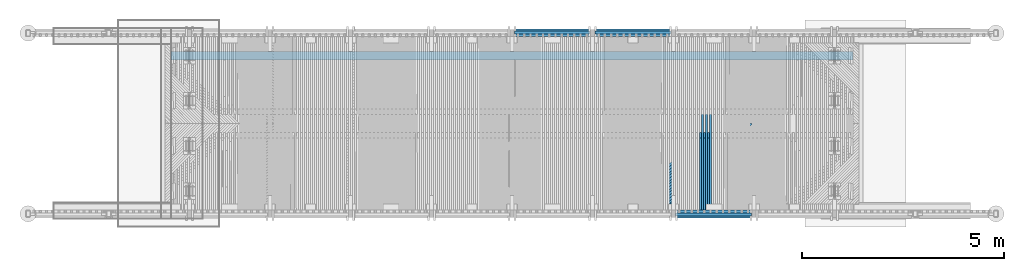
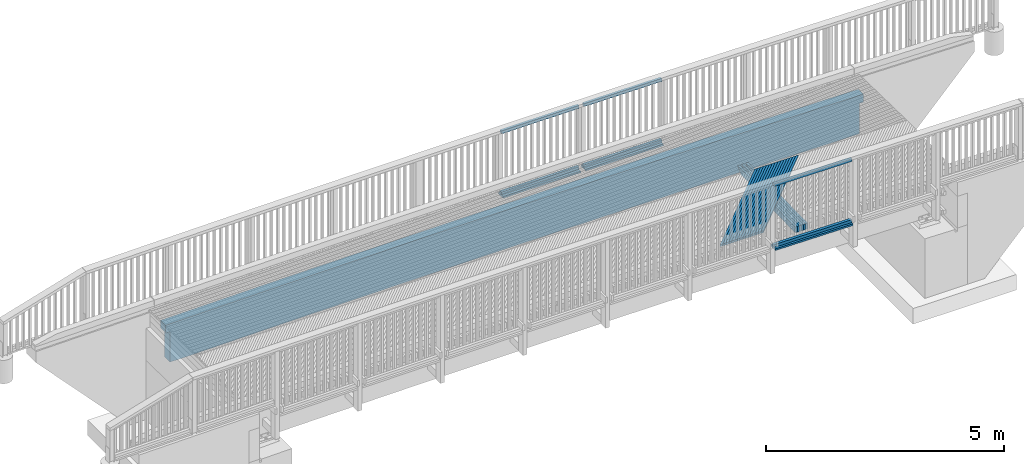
# One storey, part 37 of 52: 31 beams.
"""IFC2X3 building model written with IfcOpenShell, lengths in millimetres."""

import ifcopenshell
import ifcopenshell.guid

model = None  # the IFC model being written
_history = None  # IfcOwnerHistory: only IFC2X3 demands one
_inside = {}  # id of a spatial element -> (the spatial element, [elements in it])
_under = {}  # id of a project, library or spatial element -> (it, [spatial elements below it])
_declared = {}  # id of a project -> (the project, [libraries it declares])
_typed = {}  # id of a type object -> (the type object, [elements of that type])
_made_of = {}  # id of a material, layer set ... -> (it, [elements and type objects made of it])


def new_model(schema):
    """Start an empty IFC model of exactly this schema.

    Asked for "IFC4X3", IfcOpenShell would pick the latest addendum, in which some entities
    have other attributes; the version numbers below select the first issue.
    IFC2X3 requires an IfcOwnerHistory on every rooted entity: one is made here for all.
    """
    global model, _history
    if schema == "IFC4X3":
        model = ifcopenshell.file(schema_version=(4, 3, 0, 0))
    else:
        model = ifcopenshell.file(schema=schema)
    _inside.clear()
    _under.clear()
    _declared.clear()
    _typed.clear()
    _made_of.clear()
    _history = None
    if model.schema == "IFC2X3":
        org = make("IfcOrganization", Name="unknown")
        user = make(
            "IfcPersonAndOrganization",
            ThePerson=make("IfcPerson", FamilyName="unknown"),
            TheOrganization=org,
        )
        app = make(
            "IfcApplication",
            ApplicationDeveloper=org,
            Version="unknown",
            ApplicationFullName="unknown",
            ApplicationIdentifier="unknown",
        )
        _history = make(
            "IfcOwnerHistory",
            OwningUser=user,
            OwningApplication=app,
            ChangeAction="ADDED",
            CreationDate=0,
        )
    return model


def make(cls, **values):
    """One entity of the class cls with the attributes given. An attribute that is None is left unset."""
    return model.create_entity(
        cls, **{name: value for name, value in values.items() if value is not None}
    )


def rooted(cls, **values):
    """An entity with a GlobalId (a new one), such as an element, a storey or a relation."""
    return make(cls, GlobalId=ifcopenshell.guid.new(), OwnerHistory=_history, **values)


def si_unit(unit_type, name, prefix=None):
    """IfcSIUnit, for example si_unit("LENGTHUNIT", "METRE", prefix="MILLI")."""
    return make("IfcSIUnit", UnitType=unit_type, Prefix=prefix, Name=name)


def assignment(units):
    """IfcUnitAssignment: the units of a project."""
    return None if units is None else make("IfcUnitAssignment", Units=units)


def point(xyz):
    """IfcCartesianPoint."""
    return None if xyz is None else make("IfcCartesianPoint", Coordinates=xyz)


def direction(xyz):
    """IfcDirection."""
    return None if xyz is None else make("IfcDirection", DirectionRatios=xyz)


def frame(location, z_axis=None, x_axis=None):
    """IfcAxis2Placement3D, a coordinate frame: its origin and axes. An axis left out is left unset."""
    return make(
        "IfcAxis2Placement3D",
        Location=point(location),
        Axis=direction(z_axis),
        RefDirection=direction(x_axis),
    )


def origin_with_axes():
    """The frame at (0, 0, 0) with the z axis (0, 0, 1) and the x axis (1, 0, 0) written out."""
    return frame((0.0, 0.0, 0.0), z_axis=(0.0, 0.0, 1.0), x_axis=(1.0, 0.0, 0.0))


def place(relative_to, where):
    """IfcLocalPlacement: puts the frame where relative to a parent placement (None: the world)."""
    return make(
        "IfcLocalPlacement", PlacementRelTo=relative_to, RelativePlacement=where
    )


def context(
    kind, dimensions, precision=None, world=None, true_north=None, identifier=None
):
    """IfcGeometricRepresentationContext, for example the 3D "Model" context."""
    return make(
        "IfcGeometricRepresentationContext",
        ContextIdentifier=identifier,
        ContextType=kind,
        CoordinateSpaceDimension=dimensions,
        Precision=precision,
        WorldCoordinateSystem=world,
        TrueNorth=true_north,
    )


def subcontext(parent, identifier, kind, view, scale=None):
    """IfcGeometricRepresentationSubContext, for example "Body" below "Model"."""
    return make(
        "IfcGeometricRepresentationSubContext",
        ContextIdentifier=identifier,
        ContextType=kind,
        ParentContext=parent,
        TargetScale=scale,
        TargetView=view,
    )


def project(units=None, contexts=None):
    """IfcProject with its units and contexts."""
    return rooted(
        "IfcProject",
        Name="project",
        RepresentationContexts=contexts,
        UnitsInContext=assignment(units),
    )


def spatial(cls, under=None, at=None, **own):
    """A site, building, storey or space (cls), placed at a placement, below another one or the project."""
    s = rooted(cls, ObjectPlacement=at, **own)
    if under is not None:
        _under.setdefault(under.id(), (under, []))[1].append(s)
    return s


def faces_of(points, faces, orient=None, outer=None):
    """IfcFace entities. A face is a list of loops; a loop is a list of indices into points, from 0.

    orient and outer hold one flag for each loop. By default every Orientation is true, the
    first loop of a face is its IfcFaceOuterBound and the others are IfcFaceBound.
    """
    made = []
    for i, loops in enumerate(faces):
        bounds = []
        for j, loop in enumerate(loops):
            is_outer = j == 0 if outer is None else outer[i][j]
            bounds.append(
                make(
                    "IfcFaceOuterBound" if is_outer else "IfcFaceBound",
                    Bound=make("IfcPolyLoop", Polygon=[points[k] for k in loop]),
                    Orientation=True if orient is None else orient[i][j],
                )
            )
        made.append(make("IfcFace", Bounds=bounds))
    return made


def faceted_brep(points, faces, orient=None, outer=None, voids=None):
    """IfcFacetedBrep: a solid bounded by flat faces; with voids (closed shells), ...WithVoids."""
    shared = [point(p) for p in points]
    hull = make("IfcClosedShell", CfsFaces=faces_of(shared, faces, orient, outer))
    if voids is None:
        return make("IfcFacetedBrep", Outer=hull)
    return make(
        "IfcFacetedBrepWithVoids",
        Outer=hull,
        Voids=[
            make(cls, CfsFaces=faces_of(shared, fs, o, b)) for cls, fs, o, b in voids
        ],
    )


def shape(context_of_items, identifier, shape_type, items):
    """IfcShapeRepresentation: the items that make up one representation, for example the "Body"."""
    return make(
        "IfcShapeRepresentation",
        ContextOfItems=context_of_items,
        RepresentationIdentifier=identifier,
        RepresentationType=shape_type,
        Items=items,
    )


def material(Name=None, Category=None):
    """IfcMaterial."""
    return make("IfcMaterial", Name=Name, Category=Category)


def made_of(thing, what):
    """Note that an element or type object is made of a material, layer set ...; save() writes the relation."""
    if what is not None:
        _made_of.setdefault(what.id(), (what, []))[1].append(thing)
    return thing


def type_object(cls, material=None, **own):
    """A type object (cls), such as IfcWallType, which elements share."""
    return made_of(rooted(cls, **own), material)


def element(
    cls,
    number,
    at=None,
    inside=None,
    cuts=None,
    type_object=None,
    material=None,
    context=None,
    identifier="Body",
    shape_type=None,
    held_by="IfcProductDefinitionShape",
    body=None,
    shapes=None,
    **own,
):
    """One element of the class cls, such as IfcWall. Its Tag is "e" and its number.

    at: its placement. inside: the storey or other place that contains it. cuts: it is an
    opening in that element (IfcRelVoidsElement). A single representation is given by context,
    identifier, shape_type and body (its items); several are given by shapes. held_by: the class
    of the entity that holds the representations. save() writes the other relations.
    """
    e = rooted(cls, Tag="e%d" % number, ObjectPlacement=at, **own)
    if body is not None:
        shapes = [shape(context, identifier, shape_type, body)]
    if shapes is not None:
        e.Representation = make(held_by, Representations=shapes)
    if inside is not None:
        _inside.setdefault(inside.id(), (inside, []))[1].append(e)
    if cuts is not None:
        rooted(
            "IfcRelVoidsElement", RelatingBuildingElement=cuts, RelatedOpeningElement=e
        )
    if type_object is not None:
        _typed.setdefault(type_object.id(), (type_object, []))[1].append(e)
    return made_of(e, material)


def aggregate(whole, parts):
    """IfcRelAggregates: a whole, such as a stair, and the parts it consists of."""
    return rooted("IfcRelAggregates", RelatingObject=whole, RelatedObjects=parts)


def save(model, path):
    """Write the relations noted so far, then the file.

    IfcRelAggregates (storeys below a building ...), IfcRelContainedInSpatialStructure (elements
    in a storey), IfcRelDefinesByType, IfcRelAssociatesMaterial and IfcRelDeclares: one each for
    every whole, place, type object, material and project.
    """
    for whole, parts in _under.values():
        aggregate(whole, parts)
    for where, things in _inside.values():
        rooted(
            "IfcRelContainedInSpatialStructure",
            RelatedElements=things,
            RelatingStructure=where,
        )
    for kind, things in _typed.values():
        rooted("IfcRelDefinesByType", RelatedObjects=things, RelatingType=kind)
    for what, things in _made_of.values():
        rooted("IfcRelAssociatesMaterial", RelatedObjects=things, RelatingMaterial=what)
    for by, libraries in _declared.values():
        rooted("IfcRelDeclares", RelatingContext=by, RelatedDefinitions=libraries)
    model.write(path)


model = new_model("IFC2X3")

# Units and contexts
model_context = context("Model", 3, precision=1e-05, world=origin_with_axes())
body_context = subcontext(model_context, "Body", "Model", "MODEL_VIEW")
ifc_project = project(units=[si_unit("LENGTHUNIT", "METRE", prefix="MILLI"), si_unit("AREAUNIT", "SQUARE_METRE"), si_unit("VOLUMEUNIT", "CUBIC_METRE"), si_unit("MASSUNIT", "GRAM", prefix="KILO"), si_unit("TIMEUNIT", "SECOND"), si_unit("PLANEANGLEUNIT", "RADIAN"), si_unit("SOLIDANGLEUNIT", "STERADIAN"), si_unit("THERMODYNAMICTEMPERATUREUNIT", "DEGREE_CELSIUS"), si_unit("LUMINOUSINTENSITYUNIT", "LUMEN")], contexts=[model_context])

# Site, building, storey
site_placement = place(None, origin_with_axes())
site = spatial("IfcSite", under=ifc_project, at=site_placement, Name="Undefined", CompositionType="ELEMENT")
building_placement = place(site_placement, origin_with_axes())
building = spatial("IfcBuilding", under=site, at=building_placement, Name="Undefined", CompositionType="ELEMENT")
storey_placement = place(building_placement, origin_with_axes())
storey = spatial("IfcBuildingStorey", under=building, at=storey_placement, Name="Undefined", CompositionType="ELEMENT", Elevation=0.0)

# Beams
ifc_material = material(Name="TIMBER/Timber_Undefined")
beam_type_1 = type_object("IfcBeamType", Name="70*70", PredefinedType="NOTDEFINED")
beam_1_placement = place(storey_placement, frame((10059.8168055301, 4619.99006894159, 2964.92507854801), z_axis=(0.0, 1.0, 0.0), x_axis=(0.999986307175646, 0.0, -0.00523311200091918)))
element("IfcBeam", 1, at=beam_1_placement, inside=storey, type_object=beam_type_1, material=ifc_material, Name="BEAM", ObjectType="70*70", context=body_context, shape_type="Brep", body=[
    faceted_brep([(-3.63797880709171e-12, 35.0000000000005, -35.0), (-3.63797880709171e-12, 35.0000000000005, 35.0), (1880.02601672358, 34.9999999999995, 35.0), (1880.02601672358, 34.9999999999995, -35.0), (-3.63797880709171e-12, -34.9999999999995, 35.0), (1880.02601672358, -35.0000000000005, 35.0), (-3.63797880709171e-12, -34.9999999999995, -35.0), (1880.02601672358, -35.0000000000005, -35.0)], [[[0, 1, 2, 3]], [[1, 4, 5, 2]], [[4, 6, 7, 5]], [[6, 0, 3, 7]], [[5, 7, 3, 2]], [[6, 4, 1, 0]]]),
])
beam_2_placement = place(storey_placement, frame((8059.93901393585, 4619.98998534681, 2968.2738534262), z_axis=(0.0, 1.0, 0.0), x_axis=(0.999998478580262, 0.0, -0.00174437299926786)))
element("IfcBeam", 2, at=beam_2_placement, inside=storey, type_object=beam_type_1, material=ifc_material, Name="BEAM", ObjectType="70*70", context=body_context, shape_type="Brep", body=[
    faceted_brep([(-3.63797880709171e-12, 35.0000000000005, -35.0), (-3.63797880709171e-12, 35.0000000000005, 35.0), (1880.00289069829, 35.0, 35.0), (1880.00289069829, 35.0, -35.0), (-3.63797880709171e-12, -34.9999999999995, 35.0), (1880.00289069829, -35.0000000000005, 35.0), (-3.63797880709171e-12, -34.9999999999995, -35.0), (1880.00289069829, -35.0000000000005, -35.0)], [[[0, 1, 2, 3]], [[1, 4, 5, 2]], [[4, 6, 7, 5]], [[6, 0, 3, 7]], [[5, 7, 3, 2]], [[6, 4, 1, 0]]]),
])
beam_3_placement = place(storey_placement, frame((10059.8168055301, 4619.99006894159, 4524.92507854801), z_axis=(0.0, 1.0, 0.0), x_axis=(0.999986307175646, 0.0, -0.00523311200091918)))
element("IfcBeam", 3, at=beam_3_placement, inside=storey, type_object=beam_type_1, material=ifc_material, Name="BEAM", ObjectType="70*70", context=body_context, shape_type="Brep", body=[
    faceted_brep([(-3.63797880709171e-12, 35.0000000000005, -35.0), (-3.63797880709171e-12, 35.0000000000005, 35.0), (1880.02601672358, 34.9999999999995, 35.0), (1880.02601672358, 34.9999999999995, -35.0), (-3.63797880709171e-12, -34.9999999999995, 35.0), (1880.02601672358, -35.0000000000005, 35.0), (-3.63797880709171e-12, -34.9999999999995, -35.0), (1880.02601672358, -35.0000000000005, -35.0)], [[[0, 1, 2, 3]], [[1, 4, 5, 2]], [[4, 6, 7, 5]], [[6, 0, 3, 7]], [[5, 7, 3, 2]], [[6, 4, 1, 0]]]),
])
beam_4_placement = place(storey_placement, frame((8059.93901393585, 4619.98998534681, 4528.2738534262), z_axis=(0.0, 1.0, 0.0), x_axis=(0.999998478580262, 0.0, -0.00174437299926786)))
element("IfcBeam", 4, at=beam_4_placement, inside=storey, type_object=beam_type_1, material=ifc_material, Name="BEAM", ObjectType="70*70", context=body_context, shape_type="Brep", body=[
    faceted_brep([(-3.63797880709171e-12, 35.0000000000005, -35.0), (-3.63797880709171e-12, 35.0000000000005, 35.0), (1880.00289069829, 35.0, 35.0), (1880.00289069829, 35.0, -35.0), (-3.63797880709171e-12, -34.9999999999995, 35.0), (1880.00289069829, -35.0000000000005, 35.0), (-3.63797880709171e-12, -34.9999999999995, -35.0), (1880.00289069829, -35.0000000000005, -35.0)], [[[0, 1, 2, 3]], [[1, 4, 5, 2]], [[4, 6, 7, 5]], [[6, 0, 3, 7]], [[5, 7, 3, 2]], [[6, 4, 1, 0]]]),
])
for number, where, z_axis, x_axis, name in (
    (5, (12059.6944082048, 110.01000090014, 2954.94799357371), (0.0, -1.0, 0.0), (0.999961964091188, 0.0, -0.0087218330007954), "BEAM"),
    (6, (12059.6944082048, 110.01000090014, 4514.94799357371), (0.0, -1.0, 0.0), (0.999961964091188, 0.0, -0.0087218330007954), "BEAM"),
):
    element("IfcBeam", number, at=place(storey_placement, frame(where, z_axis=z_axis, x_axis=x_axis)), inside=storey, type_object=beam_type_1, material=ifc_material, Name=name, ObjectType="70*70", context=body_context, shape_type="Brep", body=[
        faceted_brep([(-3.63797880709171e-12, 35.0000000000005, -35.0), (-3.63797880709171e-12, 35.0000000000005, 35.0), (1880.07227097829, 34.9999999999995, 35.0), (1880.07227097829, 34.9999999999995, -35.0), (-3.63797880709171e-12, -34.9999999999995, 35.0), (1880.07227097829, -35.0000000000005, 35.0), (-3.63797880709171e-12, -34.9999999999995, -35.0), (1880.07227097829, -35.0000000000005, -35.0)], [[[0, 1, 2, 3]], [[1, 4, 5, 2]], [[4, 6, 7, 5]], [[6, 0, 3, 7]], [[5, 7, 3, 2]], [[6, 4, 1, 0]]]),
    ])
beam_type_2 = type_object("IfcBeamType", Name="50*50", PredefinedType="NOTDEFINED")
for number, where, z_axis, x_axis, name in (
    (7, (13935.0975862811, 2364.50010032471, 3206.86972998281), (0.706953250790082, -0.706981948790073, -0.019839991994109), (-0.707214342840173, -0.706948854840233, -0.00843741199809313), "BEAM"),
    (8, (13864.3767480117, 2364.50010032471, 3207.56271699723), (0.706955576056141, -0.706981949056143, -0.019756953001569), (-0.707213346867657, -0.706948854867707, -0.00852048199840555), "BEAM"),
    (9, (13793.6558288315, 2364.50010032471, 3208.24739709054), (0.706957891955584, -0.706981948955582, -0.019673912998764), (-0.70721234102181, -0.706948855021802, -0.00860355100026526), "BEAM"),
    (10, (13722.9348297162, 2364.50010032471, 3208.92377025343), (0.706960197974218, -0.706981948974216, -0.0195908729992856), (-0.7072113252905, -0.706948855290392, -0.00868662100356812), "BEAM"),
    (11, (13652.2137516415, 2364.50010032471, 3209.5918364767), (0.706962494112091, -0.706981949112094, -0.0195078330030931), (-0.707210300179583, -0.706948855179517, -0.0087696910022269), "BEAM"),
    (12, (13581.4925955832, 2364.50010032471, 3210.25159575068), (0.706964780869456, -0.706981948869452, -0.0194247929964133), (-0.707209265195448, -0.706948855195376, -0.00885276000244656), "BEAM"),
    (13, (13510.771362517, 2364.50010032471, 3210.90304806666), (0.706967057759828, -0.706981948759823, -0.019341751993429), (-0.70720822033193, -0.706948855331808, -0.00893582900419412), "BEAM"),
    (14, (13440.0500534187, 2364.50010032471, 3211.54619341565), (0.706969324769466, -0.706981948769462, -0.0192587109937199), (-0.707207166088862, -0.706948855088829, -0.00901889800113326), "BEAM"),
    (15, (13369.3286692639, 2364.50010032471, 3212.18103178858), (0.706971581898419, -0.706981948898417, -0.0191756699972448), (-0.707206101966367, -0.706948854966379, -0.00910196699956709), "BEAM"),
    (16, (13298.6072110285, 2364.50010032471, 3212.80756317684), (0.706973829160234, -0.706981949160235, -0.0190926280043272), (-0.707205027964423, -0.706948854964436, -0.00918503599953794), "BEAM"),
    (17, (13227.8856796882, 2364.50010032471, 3213.42578757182), (0.706976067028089, -0.706981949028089, -0.0190095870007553), (-0.707203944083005, -0.706948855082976, -0.00926810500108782), "BEAM"),
    (18, (13157.1640762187, 2364.50010032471, 3214.03570496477), (0.706978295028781, -0.70698194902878, -0.0189265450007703), (-0.707202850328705, -0.706948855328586, -0.00935117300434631), "BEAM"),
    (19, (13086.4424015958, 2364.50010032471, 3214.63731534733), (0.70698051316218, -0.706981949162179, -0.0188435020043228), (-0.707201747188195, -0.706948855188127, -0.00943424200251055), "BEAM"),
    (20, (13015.7206567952, 2364.50010032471, 3215.23061871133), (0.706982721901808, -0.706981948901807, -0.0187604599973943), (-0.707200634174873, -0.706948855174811, -0.00951731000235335), "BEAM"),
    (21, (12944.9988427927, 2364.50010032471, 3215.81561504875), (0.706984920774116, -0.706981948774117, -0.0186774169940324), (-0.707199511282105, -0.706948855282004, -0.0096003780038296), "BEAM"),
):
    element("IfcBeam", number, at=place(storey_placement, frame(where, z_axis=z_axis, x_axis=x_axis)), inside=storey, type_object=beam_type_2, material=ifc_material, Name=name, ObjectType="50*50", context=body_context, shape_type="Brep", body=[
        faceted_brep([(24.894245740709, 25.0, -25.0), (-25.0086637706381, 24.9999999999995, 24.9999999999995), (2804.3406783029, 25.0000000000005, 25.0000000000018), (2854.34301907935, 25.0, -24.9999999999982), (-26.4222658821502, -25.0, 24.9999999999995), (2802.92643296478, -25.0, 25.0000000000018), (23.4806436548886, -25.0, -25.0), (2852.92877373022, -25.0, -24.9999999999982)], [[[0, 1, 2, 3]], [[1, 4, 5, 2]], [[4, 6, 7, 5]], [[6, 0, 3, 7]], [[5, 7, 3, 2]], [[6, 4, 1, 0]]]),
    ])
beam_type_3 = type_object("IfcBeamType", Name="195*45", PredefinedType="NOTDEFINED")
for number, where, z_axis, x_axis, name in (
    (22, (10058.6596893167, 4612.49006894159, 2907.43959457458), (0.0, 1.0, 0.0), (0.999986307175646, 0.0, -0.00523311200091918), "BEAM"),
    (23, (8058.9824575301, 4612.48998534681, 2910.78468240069), (0.0, 1.0, 0.0), (0.999998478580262, 0.0, -0.00174437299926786), "BEAM"),
    (24, (12058.3367436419, 117.510000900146, 2897.4668963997), (0.0, -1.0, 0.0), (0.999961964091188, 0.0, -0.0087218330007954), "BEAM"),
):
    element("IfcBeam", number, at=place(storey_placement, frame(where, z_axis=z_axis, x_axis=x_axis)), inside=storey, type_object=beam_type_3, material=ifc_material, Name=name, ObjectType="195*45", context=body_context, shape_type="Brep", body=[
        faceted_brep([(3.63797880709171e-12, 22.4999999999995, -97.5), (3.63797880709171e-12, 22.4999999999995, 97.5), (1880.22135781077, 22.4999999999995, 97.5), (1880.22135781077, 22.4999999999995, -97.5), (1.81898940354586e-12, -22.5000000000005, 97.5), (1880.22135781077, -22.5000000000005, 97.5), (1.81898940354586e-12, -22.5000000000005, -97.5), (1880.22135781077, -22.5000000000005, -97.5)], [[[0, 1, 2, 3]], [[1, 4, 5, 2]], [[4, 6, 7, 5]], [[6, 0, 3, 7]], [[5, 7, 3, 2]], [[6, 4, 1, 0]]]),
    ])
beam_type_4 = type_object("IfcBeamType", Name="150*50", PredefinedType="NOTDEFINED")
beam_5_placement = place(storey_placement, frame((12874.8994002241, 216.50460761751, 3073.40458690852), z_axis=(0.00801827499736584, -0.01999600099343, 0.999767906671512), x_axis=(0.0001603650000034, 0.999800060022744, 0.0199953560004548)))
element("IfcBeam", 25, at=beam_5_placement, inside=storey, type_object=beam_type_4, material=ifc_material, Name="BEAM", ObjectType="150*50", context=body_context, shape_type="Brep", body=[
    faceted_brep([(-1.67788130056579e-07, -24.9999999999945, -74.9999999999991), (1.67786311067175e-07, -24.9999999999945, 75.0000000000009), (1.67786311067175e-07, 25.0000000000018, 75.0), (-1.67787220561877e-07, 25.0000000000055, -75.0), (1789.96936433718, -25.0000000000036, 74.9999999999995), (1789.96936408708, 24.9999999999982, 75.0000000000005), (1928.42646328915, 24.9999999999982, -74.9999999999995), (1928.42646353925, -25.0, -75.0)], [[[0, 1, 2, 3]], [[2, 1, 4, 5]], [[3, 2, 5, 6]], [[0, 3, 6, 7]], [[1, 0, 7, 4]], [[6, 5, 4, 7]]]),
])
beam_6_placement = place(storey_placement, frame((12924.9177572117, 216.504607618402, 3072.99512326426), z_axis=(0.00818439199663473, -0.01999600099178, 0.999766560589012), x_axis=(0.000163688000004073, 0.999800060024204, 0.019995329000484)))
element("IfcBeam", 26, at=beam_6_placement, inside=storey, type_object=beam_type_4, material=ifc_material, Name="BEAM", ObjectType="150*50", context=body_context, shape_type="Brep", body=[
    faceted_brep([(-1.67788130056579e-07, -24.9999999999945, -74.9999999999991), (1.67786311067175e-07, -24.9999999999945, 75.0000000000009), (1.67786311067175e-07, 25.0000000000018, 75.0), (-1.67787220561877e-07, 25.0000000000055, -75.0), (2375.00494422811, 25.0000000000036, -74.9999999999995), (2375.0049444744, -24.9999999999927, -74.9999999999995), (2510.5924871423, -24.9999999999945, 60.5875430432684), (2150.42514405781, -24.9999999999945, 75.0000000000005), (2150.42515052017, 25.0000000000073, 75.0), (2510.59248715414, 25.0000000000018, 60.5875433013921)], [[[0, 1, 2, 3]], [[0, 3, 4, 5]], [[1, 0, 5, 6, 7]], [[2, 1, 7, 8]], [[4, 3, 2, 8, 9]], [[5, 4, 9, 6]], [[6, 9, 8, 7]]]),
])
beam_7_placement = place(storey_placement, frame((12774.8825803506, 216.50460761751, 3074.20626833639), z_axis=(0.00785215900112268, -0.0199960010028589, 0.99976922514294), x_axis=(0.00015704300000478, 0.999800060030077, 0.0199953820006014)))
element("IfcBeam", 27, at=beam_7_placement, inside=storey, type_object=beam_type_4, material=ifc_material, Name="BEAM", ObjectType="150*50", context=body_context, shape_type="Brep", body=[
    faceted_brep([(-1.67788130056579e-07, -24.9999999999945, -74.9999999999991), (1.67786311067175e-07, -24.9999999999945, 75.0000000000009), (1.67786311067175e-07, 25.0000000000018, 75.0), (-1.67787220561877e-07, 25.0000000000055, -75.0), (1789.96936433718, -25.0000000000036, 74.9999999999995), (1789.96936408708, 24.9999999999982, 75.0000000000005), (1928.42646328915, 24.9999999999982, -74.9999999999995), (1928.42646353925, -25.0, -75.0)], [[[0, 1, 2, 3]], [[2, 1, 4, 5]], [[3, 2, 5, 6]], [[0, 3, 6, 7]], [[1, 0, 7, 4]], [[6, 5, 4, 7]]]),
])
beam_8_placement = place(storey_placement, frame((12824.9010046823, 216.504607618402, 3073.80511551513), z_axis=(0.00801827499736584, -0.01999600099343, 0.999767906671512), x_axis=(0.0001603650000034, 0.999800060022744, 0.0199953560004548)))
element("IfcBeam", 28, at=beam_8_placement, inside=storey, type_object=beam_type_4, material=ifc_material, Name="BEAM", ObjectType="150*50", context=body_context, shape_type="Brep", body=[
    faceted_brep([(-1.67788130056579e-07, -24.9999999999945, -74.9999999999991), (1.67786311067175e-07, -24.9999999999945, 75.0000000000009), (1.67786311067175e-07, 25.0000000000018, 75.0), (-1.67787220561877e-07, 25.0000000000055, -75.0), (2375.00494422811, 25.0000000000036, -74.9999999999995), (2375.0049444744, -24.9999999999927, -74.9999999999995), (2510.5924871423, -24.9999999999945, 60.5875430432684), (2150.42514405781, -24.9999999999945, 75.0000000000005), (2150.42515052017, 25.0000000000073, 75.0), (2510.59248715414, 25.0000000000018, 60.5875433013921)], [[[0, 1, 2, 3]], [[0, 3, 4, 5]], [[1, 0, 5, 6, 7]], [[2, 1, 7, 8]], [[4, 3, 2, 8, 9]], [[5, 4, 9, 6]], [[6, 9, 8, 7]]]),
])
beam_9_placement = place(storey_placement, frame((12674.8656286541, 216.50460761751, 3074.99133142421), z_axis=(0.00768604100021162, -0.0199960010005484, 0.999770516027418), x_axis=(0.000153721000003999, 0.999800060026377, 0.0199954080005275)))
element("IfcBeam", 29, at=beam_9_placement, inside=storey, type_object=beam_type_4, material=ifc_material, Name="BEAM", ObjectType="150*50", context=body_context, shape_type="Brep", body=[
    faceted_brep([(-1.67788130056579e-07, -24.9999999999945, -74.9999999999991), (1.67786311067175e-07, -24.9999999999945, 75.0000000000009), (1.67786311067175e-07, 25.0000000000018, 75.0), (-1.67787220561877e-07, 25.0000000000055, -75.0), (1789.96936433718, -25.0000000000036, 74.9999999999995), (1789.96936408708, 24.9999999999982, 75.0000000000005), (1928.42646328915, 24.9999999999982, -74.9999999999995), (1928.42646353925, -25.0, -75.0)], [[[0, 1, 2, 3]], [[2, 1, 4, 5]], [[3, 2, 5, 6]], [[0, 3, 6, 7]], [[1, 0, 7, 4]], [[6, 5, 4, 7]]]),
])
beam_10_placement = place(storey_placement, frame((12724.884118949, 216.504607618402, 3074.5984894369), z_axis=(0.00785215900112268, -0.0199960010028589, 0.99976922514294), x_axis=(0.00015704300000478, 0.999800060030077, 0.0199953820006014)))
element("IfcBeam", 30, at=beam_10_placement, inside=storey, type_object=beam_type_4, material=ifc_material, Name="BEAM", ObjectType="150*50", context=body_context, shape_type="Brep", body=[
    faceted_brep([(-1.67788130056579e-07, -24.9999999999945, -74.9999999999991), (1.67786311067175e-07, -24.9999999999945, 75.0000000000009), (1.67786311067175e-07, 25.0000000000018, 75.0), (-1.67787220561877e-07, 25.0000000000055, -75.0), (2375.00494422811, 25.0000000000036, -74.9999999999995), (2375.0049444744, -24.9999999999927, -74.9999999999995), (2510.5924871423, -24.9999999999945, 60.5875430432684), (2150.42514405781, -24.9999999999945, 75.0000000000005), (2150.42515052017, 25.0000000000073, 75.0), (2510.59248715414, 25.0000000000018, 60.5875433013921)], [[[0, 1, 2, 3]], [[0, 3, 4, 5]], [[1, 0, 5, 6, 7]], [[2, 1, 7, 8]], [[4, 3, 2, 8, 9]], [[5, 4, 9, 6]], [[6, 9, 8, 7]]]),
])
beam_type_5 = type_object("IfcBeamType", Name="990*215", PredefinedType="NOTDEFINED")
beam_11_placement = place(storey_placement, frame((243.613169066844, 4045.0, 2480.11879463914), z_axis=(0.0, 0.0, 1.0), x_axis=(1.0, 0.0, 0.0)))
element("IfcBeam", 31, at=beam_11_placement, inside=storey, type_object=beam_type_5, material=ifc_material, Name="PALKKI", ObjectType="990*215", context=body_context, shape_type="Brep", body=[
    faceted_brep([(16106.3868309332, 107.5, -494.790894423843), (16106.3868309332, -107.5, -494.790894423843), (16080.5342107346, -107.5, -494.790894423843), (15793.4597682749, -107.5, -494.790894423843), (15506.3868309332, -107.5, -494.958794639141), (15506.3868309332, 107.5, -494.958794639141), (15793.4597682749, 107.5, -494.790894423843), (16080.5342107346, 107.5, -494.790894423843), (16106.3868309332, 107.5, 285.209105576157), (16106.3868309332, -107.5, 285.209105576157), (16206.3868309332, 107.5, 285.209105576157), (16206.3868309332, -107.5, 285.209105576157), (16206.3868309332, 107.5, 485.682039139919), (16206.3868309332, -107.5, 485.682039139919), (-627.370013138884, 107.5, 486.625216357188), (-627.370013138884, -107.5, 486.625216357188), (-316.879497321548, -107.5, 490.87213125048), (-316.879497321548, 107.5, 490.87213125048), (-693.613169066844, -107.5, 485.684940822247), (-693.613169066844, -107.5, 285.209105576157), (-624.563039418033, -107.5, 285.209105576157), (-693.613169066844, 107.5, 485.684940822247), (-693.613169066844, 107.5, 285.209105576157), (-624.563039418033, 107.5, 285.209105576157), (-593.613169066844, 107.5, 285.209105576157), (-593.613169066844, -107.5, 285.209105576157), (-593.613169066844, 107.5, -494.790894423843), (-593.613169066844, -107.5, -494.790894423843), (-303.651924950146, -107.5, -494.790894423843), (-6.38683093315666, -107.5, 494.958794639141), (6.38683093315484, -107.5, -494.958794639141), (-6.38683093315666, 107.5, 494.958794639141), (6.38683093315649, 107.5, -494.790894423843), (304.107903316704, 107.5, 498.885205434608), (316.370645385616, 107.5, -491.038844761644), (-303.651924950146, 107.5, -494.790894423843), (316.370645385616, -107.5, -491.038844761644), (304.107903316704, -107.5, 498.885205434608), (614.604622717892, -107.5, 502.651362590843), (614.604622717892, 107.5, 502.651362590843), (626.356441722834, 107.5, -487.278884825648), (626.356441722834, -107.5, -487.278884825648), (936.344137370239, -107.5, -483.678915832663), (925.103244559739, -107.5, 506.257265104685), (925.103244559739, 107.5, 506.257265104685), (936.344137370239, 107.5, -483.678915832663), (1246.33364975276, 107.5, -480.238938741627), (1246.33364975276, -107.5, -480.238938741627), (1235.60368613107, -107.5, 509.702912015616), (1235.60368613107, 107.5, 509.702912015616), (1546.10586472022, 107.5, 512.988302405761), (1556.32489629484, 107.5, -476.958954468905), (1556.32489629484, -107.5, -476.958954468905), (1546.10586472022, -107.5, 512.988302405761), (1856.60969761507, -107.5, 516.113435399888), (1856.60969761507, 107.5, 516.113435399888), (1866.31779442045, 107.5, -473.838963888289), (1866.31779442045, -107.5, -473.838963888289), (2176.31226155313, -107.5, -470.878967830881), (2167.11510210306, -107.5, 519.078310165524), (2167.11510210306, 107.5, 519.078310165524), (2176.31226155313, 107.5, -470.878967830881), (2486.30821511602, 107.5, -468.078967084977), (2486.30821511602, -107.5, -468.078967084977), (2477.6219954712, -107.5, 521.882925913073), (2477.6219954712, 107.5, 521.882925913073), (2788.13029500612, 107.5, 524.527281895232), (2796.30557253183, 107.5, -465.438962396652), (2796.30557253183, -107.5, -465.438962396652), (2788.13029500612, -107.5, 524.527281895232), (3098.63991799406, -107.5, 527.011377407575), (3098.63991799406, 107.5, 527.011377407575), (3106.30425122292, 107.5, -462.958954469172), (3106.30425122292, -107.5, -462.958954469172), (3416.30416861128, -107.5, -460.638943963), (3409.15078172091, -107.5, 529.335211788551), (3409.15078172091, 107.5, 529.335211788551), (3416.30416861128, 107.5, -460.638943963), (3726.30524211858, 107.5, -458.478931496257), (3726.30524211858, -107.5, -458.478931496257), (3719.66280347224, -107.5, 531.49878441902), (3719.66280347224, 107.5, 531.49878441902), (4030.1759005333, 107.5, 533.502094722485), (4036.3073891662, 107.5, -456.478917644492), (4036.3073891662, -107.5, -456.478917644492), (4030.1759005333, -107.5, 533.502094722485), (4340.68999018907, -107.5, 535.345142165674), (4340.68999018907, 107.5, 535.345142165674), (4346.3105271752, 107.5, -454.638902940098), (4346.3105271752, -107.5, -454.638902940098), (4656.31457356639, -107.5, -452.958887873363), (4651.20498972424, -107.5, 537.027926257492), (4651.20498972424, 107.5, 537.027926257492), (4656.31457356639, 107.5, -452.958887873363), (4966.31944576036, 107.5, -451.438872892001), (4966.31944576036, -107.5, -451.438872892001), (4961.72081642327, -107.5, 538.550446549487), (4961.72081642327, 107.5, 538.550446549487), (5272.23738757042, 107.5, 539.912702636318), (5276.32506117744, 107.5, -450.078858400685), (5276.32506117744, -107.5, -450.078858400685), (5272.23738757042, -107.5, 539.912702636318), (5582.75462044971, -107.5, 541.114694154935), (5582.75462044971, 107.5, 541.114694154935), (5586.33133723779, 107.5, -448.878844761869), (5586.33133723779, -107.5, -448.878844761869), (5896.33819136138, -107.5, -447.838832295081), (5893.27243234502, -107.5, 542.156420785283), (5893.27243234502, 107.5, 542.156420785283), (5896.33819136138, 107.5, -447.838832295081), (6206.34554096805, 107.5, -446.958821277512), (6206.34554096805, -107.5, -446.958821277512), (6203.79074054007, -107.5, 543.037882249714), (6203.79074054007, 107.5, 543.037882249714), (6514.30946231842, 107.5, 543.759078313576), (6516.35330347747, 107.5, -446.238811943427), (6516.35330347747, -107.5, -446.238811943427), (6514.30946231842, -107.5, 543.759078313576), (6824.82851496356, -107.5, 544.320008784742), (6824.82851496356, 107.5, 544.320008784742), (6826.36139630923, 107.5, -445.678804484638), (6826.36139630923, -107.5, -445.678804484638), (7136.36973688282, -107.5, -445.278799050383), (7135.34781575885, -107.5, 544.720673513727), (7135.34781575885, 107.5, 544.720673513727), (7136.36973688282, 107.5, -445.278799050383), (7446.37824261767, 107.5, -445.038795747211), (7446.37824261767, -107.5, -445.038795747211), (7445.86728198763, -107.5, 544.961072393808), (7445.86728198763, 107.5, 544.961072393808), (7756.38683093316, 107.5, 545.041205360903), (7756.38683093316, 107.5, -444.958794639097), (7756.38683093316, -107.5, -444.958794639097), (7756.38683093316, -107.5, 545.041205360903), (8066.90637987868, -107.5, 544.961072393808), (8066.90637987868, 107.5, 544.961072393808), (8066.39541924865, 107.5, -445.038795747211), (8066.39541924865, -107.5, -445.038795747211), (8376.40392498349, -107.5, -445.278799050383), (8377.42584610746, -107.5, 544.720673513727), (8377.42584610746, 107.5, 544.720673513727), (8376.40392498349, 107.5, -445.278799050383), (8686.41226555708, 107.5, -445.678804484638), (8686.41226555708, -107.5, -445.678804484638), (8687.94514690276, -107.5, 544.320008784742), (8687.94514690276, 107.5, 544.320008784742), (8998.46419954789, 107.5, 543.759078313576), (8996.42035838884, 107.5, -446.238811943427), (8996.42035838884, -107.5, -446.238811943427), (8998.46419954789, -107.5, 543.759078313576), (9308.98292132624, -107.5, 543.037882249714), (9308.98292132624, 107.5, 543.037882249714), (9306.42812089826, 107.5, -446.958821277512), (9306.42812089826, -107.5, -446.958821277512), (9616.43547050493, -107.5, -447.838832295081), (9619.50122952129, -107.5, 542.156420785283), (9619.50122952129, 107.5, 542.156420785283), (9616.43547050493, 107.5, -447.838832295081), (9926.44232462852, 107.5, -448.878844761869), (9926.44232462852, -107.5, -448.878844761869), (9930.0190414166, -107.5, 541.114694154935), (9930.0190414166, 107.5, 541.114694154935), (10240.5362742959, 107.5, 539.912702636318), (10236.4486006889, 107.5, -450.078858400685), (10236.4486006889, -107.5, -450.078858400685), (10240.5362742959, -107.5, 539.912702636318), (10551.052845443, -107.5, 538.550446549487), (10551.052845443, 107.5, 538.550446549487), (10546.454216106, 107.5, -451.438872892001), (10546.454216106, -107.5, -451.438872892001), (10856.4590882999, -107.5, -452.958887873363), (10861.5686721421, -107.5, 537.027926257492), (10861.5686721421, 107.5, 537.027926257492), (10856.4590882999, 107.5, -452.958887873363), (11166.4631346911, 107.5, -454.638902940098), (11166.4631346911, -107.5, -454.638902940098), (11172.0836716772, -107.5, 535.345142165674), (11172.0836716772, 107.5, 535.345142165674), (11482.597761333, 107.5, 533.502094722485), (11476.4662727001, 107.5, -456.478917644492), (11476.4662727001, -107.5, -456.478917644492), (11482.597761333, -107.5, 533.502094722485), (11793.1108583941, -107.5, 531.49878441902), (11793.1108583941, 107.5, 531.49878441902), (11786.4684197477, 107.5, -458.478931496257), (11786.4684197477, -107.5, -458.478931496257), (12096.469493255, -107.5, -460.638943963), (12103.6228801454, -107.5, 529.335211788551), (12103.6228801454, 107.5, 529.335211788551), (12096.469493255, 107.5, -460.638943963), (12406.4694106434, 107.5, -462.958954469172), (12406.4694106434, -107.5, -462.958954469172), (12414.1337438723, -107.5, 527.011377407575), (12414.1337438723, 107.5, 527.011377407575), (12724.6433668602, 107.5, 524.527281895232), (12716.4680893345, 107.5, -465.438962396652), (12716.4680893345, -107.5, -465.438962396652), (12724.6433668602, -107.5, 524.527281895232), (13035.1516663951, -107.5, 521.882925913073), (13035.1516663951, 107.5, 521.882925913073), (13026.4654467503, 107.5, -468.078967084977), (13026.4654467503, -107.5, -468.078967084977), (13336.4614003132, -107.5, -470.878967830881), (13345.6585597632, -107.5, 519.078310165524), (13345.6585597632, 107.5, 519.078310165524), (13336.4614003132, 107.5, -470.878967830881), (13646.4558674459, 107.5, -473.838963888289), (13646.4558674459, -107.5, -473.838963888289), (13656.1639642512, -107.5, 516.113435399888), (13656.1639642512, 107.5, 516.113435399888), (13966.6677971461, 107.5, 512.988302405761), (13956.4487655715, 107.5, -476.958954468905), (13956.4487655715, -107.5, -476.958954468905), (13966.6677971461, -107.5, 512.988302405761), (14277.1699757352, -107.5, 509.702912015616), (14277.1699757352, 107.5, 509.702912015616), (14266.4400121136, 107.5, -480.238938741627), (14266.4400121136, -107.5, -480.238938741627), (14576.4295244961, -107.5, -483.678915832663), (14587.6704173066, -107.5, 506.257265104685), (14587.6704173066, 107.5, 506.257265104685), (14576.4295244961, 107.5, -483.678915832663), (14886.4172201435, 107.5, -487.278884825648), (14886.4172201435, -107.5, -487.278884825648), (14898.1690391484, -107.5, 502.651362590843), (14898.1690391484, 107.5, 502.651362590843), (15208.6657585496, 107.5, 498.885205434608), (15196.4030164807, 107.5, -491.038844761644), (15196.4030164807, -107.5, -491.038844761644), (15208.6657585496, -107.5, 498.885205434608), (15519.1604927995, -107.5, 494.958794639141), (15519.1604927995, 107.5, 494.958794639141), (15806.6537751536, -107.5, 491.180342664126), (15806.6537751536, 107.5, 491.180342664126), (16094.1452189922, -107.5, 487.264500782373), (16094.1452189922, 107.5, 487.264500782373)], [[[0, 1, 2, 3, 4, 5, 6, 7]], [[8, 9, 1, 0]], [[10, 11, 9, 8]], [[12, 13, 11, 10]], [[14, 15, 16, 17]], [[15, 18, 19, 20]], [[21, 22, 19, 18]], [[15, 14, 21, 18]], [[21, 14, 23, 22]], [[24, 25, 20, 19, 22, 23]], [[26, 27, 25, 24]], [[16, 15, 20, 25, 27, 28]], [[29, 16, 28, 30]], [[17, 16, 29, 31]], [[32, 31, 33, 34]], [[17, 31, 32, 35]], [[24, 23, 14, 17, 35, 26]], [[32, 30, 28, 27, 26, 35]], [[34, 36, 30, 32]], [[29, 30, 36, 37]], [[31, 29, 37, 33]], [[33, 37, 38, 39]], [[34, 33, 39, 40]], [[36, 34, 40, 41]], [[37, 36, 41, 38]], [[38, 41, 42, 43]], [[39, 38, 43, 44]], [[40, 39, 44, 45]], [[41, 40, 45, 42]], [[42, 45, 46, 47]], [[43, 42, 47, 48]], [[44, 43, 48, 49]], [[45, 44, 49, 46]], [[46, 49, 50, 51]], [[47, 46, 51, 52]], [[48, 47, 52, 53]], [[49, 48, 53, 50]], [[50, 53, 54, 55]], [[51, 50, 55, 56]], [[52, 51, 56, 57]], [[53, 52, 57, 54]], [[54, 57, 58, 59]], [[55, 54, 59, 60]], [[56, 55, 60, 61]], [[57, 56, 61, 58]], [[58, 61, 62, 63]], [[59, 58, 63, 64]], [[60, 59, 64, 65]], [[61, 60, 65, 62]], [[62, 65, 66, 67]], [[63, 62, 67, 68]], [[64, 63, 68, 69]], [[65, 64, 69, 66]], [[66, 69, 70, 71]], [[67, 66, 71, 72]], [[68, 67, 72, 73]], [[69, 68, 73, 70]], [[70, 73, 74, 75]], [[71, 70, 75, 76]], [[72, 71, 76, 77]], [[73, 72, 77, 74]], [[74, 77, 78, 79]], [[75, 74, 79, 80]], [[76, 75, 80, 81]], [[77, 76, 81, 78]], [[78, 81, 82, 83]], [[79, 78, 83, 84]], [[80, 79, 84, 85]], [[81, 80, 85, 82]], [[82, 85, 86, 87]], [[83, 82, 87, 88]], [[84, 83, 88, 89]], [[85, 84, 89, 86]], [[86, 89, 90, 91]], [[87, 86, 91, 92]], [[88, 87, 92, 93]], [[89, 88, 93, 90]], [[90, 93, 94, 95]], [[91, 90, 95, 96]], [[92, 91, 96, 97]], [[93, 92, 97, 94]], [[94, 97, 98, 99]], [[95, 94, 99, 100]], [[96, 95, 100, 101]], [[97, 96, 101, 98]], [[98, 101, 102, 103]], [[99, 98, 103, 104]], [[100, 99, 104, 105]], [[101, 100, 105, 102]], [[102, 105, 106, 107]], [[103, 102, 107, 108]], [[104, 103, 108, 109]], [[105, 104, 109, 106]], [[106, 109, 110, 111]], [[107, 106, 111, 112]], [[108, 107, 112, 113]], [[109, 108, 113, 110]], [[110, 113, 114, 115]], [[111, 110, 115, 116]], [[112, 111, 116, 117]], [[113, 112, 117, 114]], [[114, 117, 118, 119]], [[115, 114, 119, 120]], [[116, 115, 120, 121]], [[117, 116, 121, 118]], [[118, 121, 122, 123]], [[119, 118, 123, 124]], [[120, 119, 124, 125]], [[121, 120, 125, 122]], [[122, 125, 126, 127]], [[123, 122, 127, 128]], [[124, 123, 128, 129]], [[125, 124, 129, 126]], [[126, 129, 130, 131]], [[127, 126, 131, 132]], [[128, 127, 132, 133]], [[129, 128, 133, 130]], [[130, 133, 134, 135]], [[131, 130, 135, 136]], [[132, 131, 136, 137]], [[133, 132, 137, 134]], [[134, 137, 138, 139]], [[135, 134, 139, 140]], [[136, 135, 140, 141]], [[137, 136, 141, 138]], [[138, 141, 142, 143]], [[139, 138, 143, 144]], [[140, 139, 144, 145]], [[141, 140, 145, 142]], [[142, 145, 146, 147]], [[143, 142, 147, 148]], [[144, 143, 148, 149]], [[145, 144, 149, 146]], [[146, 149, 150, 151]], [[147, 146, 151, 152]], [[148, 147, 152, 153]], [[149, 148, 153, 150]], [[150, 153, 154, 155]], [[151, 150, 155, 156]], [[152, 151, 156, 157]], [[153, 152, 157, 154]], [[154, 157, 158, 159]], [[155, 154, 159, 160]], [[156, 155, 160, 161]], [[157, 156, 161, 158]], [[158, 161, 162, 163]], [[159, 158, 163, 164]], [[160, 159, 164, 165]], [[161, 160, 165, 162]], [[162, 165, 166, 167]], [[163, 162, 167, 168]], [[164, 163, 168, 169]], [[165, 164, 169, 166]], [[166, 169, 170, 171]], [[167, 166, 171, 172]], [[168, 167, 172, 173]], [[169, 168, 173, 170]], [[170, 173, 174, 175]], [[171, 170, 175, 176]], [[172, 171, 176, 177]], [[173, 172, 177, 174]], [[174, 177, 178, 179]], [[175, 174, 179, 180]], [[176, 175, 180, 181]], [[177, 176, 181, 178]], [[178, 181, 182, 183]], [[179, 178, 183, 184]], [[180, 179, 184, 185]], [[181, 180, 185, 182]], [[182, 185, 186, 187]], [[183, 182, 187, 188]], [[184, 183, 188, 189]], [[185, 184, 189, 186]], [[186, 189, 190, 191]], [[187, 186, 191, 192]], [[188, 187, 192, 193]], [[189, 188, 193, 190]], [[190, 193, 194, 195]], [[191, 190, 195, 196]], [[192, 191, 196, 197]], [[193, 192, 197, 194]], [[194, 197, 198, 199]], [[195, 194, 199, 200]], [[196, 195, 200, 201]], [[197, 196, 201, 198]], [[198, 201, 202, 203]], [[199, 198, 203, 204]], [[200, 199, 204, 205]], [[201, 200, 205, 202]], [[202, 205, 206, 207]], [[203, 202, 207, 208]], [[204, 203, 208, 209]], [[205, 204, 209, 206]], [[206, 209, 210, 211]], [[207, 206, 211, 212]], [[208, 207, 212, 213]], [[209, 208, 213, 210]], [[210, 213, 214, 215]], [[211, 210, 215, 216]], [[212, 211, 216, 217]], [[213, 212, 217, 214]], [[214, 217, 218, 219]], [[215, 214, 219, 220]], [[216, 215, 220, 221]], [[217, 216, 221, 218]], [[218, 221, 222, 223]], [[219, 218, 223, 224]], [[220, 219, 224, 225]], [[221, 220, 225, 222]], [[222, 225, 226, 227]], [[223, 222, 227, 228]], [[224, 223, 228, 229]], [[225, 224, 229, 226]], [[226, 229, 230, 231]], [[231, 230, 232, 233]], [[233, 232, 234, 235]], [[8, 0, 7, 235, 12, 10]], [[233, 235, 7, 6]], [[231, 233, 6, 5]], [[227, 226, 231, 5]], [[228, 227, 5, 4]], [[229, 228, 4, 230]], [[232, 230, 4, 3]], [[234, 232, 3, 2]], [[234, 2, 1, 9, 11, 13]], [[235, 234, 13, 12]]]),
])

save(model, "model.ifc")
